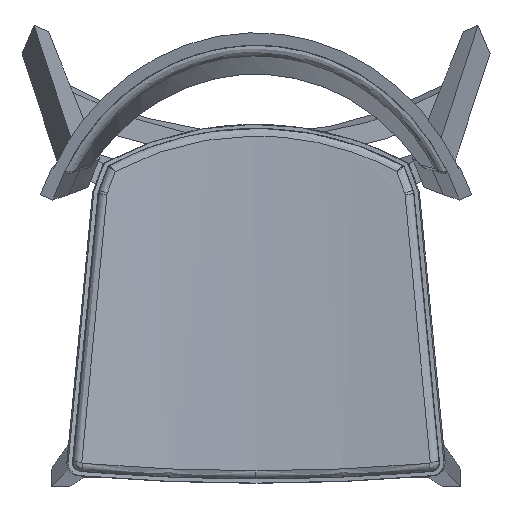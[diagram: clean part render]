
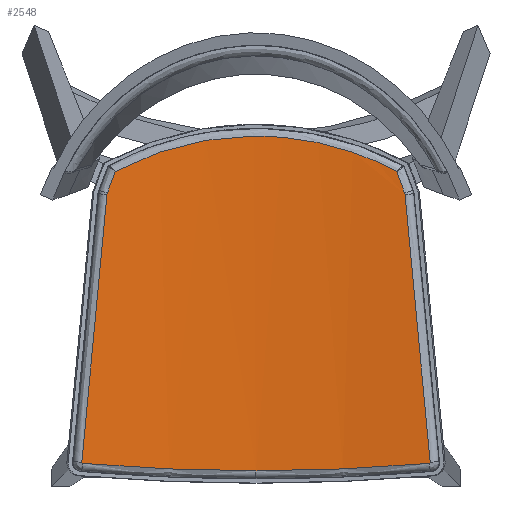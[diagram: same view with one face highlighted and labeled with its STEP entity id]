
A CAD part, top view. The second image highlights one B-rep face of the part: STEP entity #2548.
In plain terms, the highlighted cylindrical face has radius 1387 mm (diameter 2774 mm), a partial arc.
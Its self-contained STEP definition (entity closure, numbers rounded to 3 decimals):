
#267=B_SPLINE_CURVE_WITH_KNOTS('',3,(#6824,#6825,#6826,#6827,#6828,#6829,
#6830,#6831),.UNSPECIFIED.,.F.,.F.,(4,1,1,1,1,4),(-34.172,-24.642,
-14.785,-12.321,-4.928,-0.326),
 .UNSPECIFIED.);
#270=B_SPLINE_CURVE_WITH_KNOTS('',3,(#6905,#6906,#6907,#6908),
 .UNSPECIFIED.,.F.,.F.,(4,4),(-2.979,-0.33),
 .UNSPECIFIED.);
#271=B_SPLINE_CURVE_WITH_KNOTS('',3,(#6935,#6936,#6937,#6938),
 .UNSPECIFIED.,.F.,.F.,(4,4),(-0.164,0.),
 .UNSPECIFIED.);
#272=B_SPLINE_CURVE_WITH_KNOTS('',3,(#6985,#6986,#6987,#6988,#6989,#6990,
#6991),.UNSPECIFIED.,.F.,.F.,(4,1,1,1,4),(-0.197,-0.14,
-0.084,-0.028,0.),.UNSPECIFIED.);
#274=B_SPLINE_CURVE_WITH_KNOTS('',3,(#7028,#7029,#7030,#7031),
 .UNSPECIFIED.,.F.,.F.,(4,4),(-20.046,0.),.UNSPECIFIED.);
#276=B_SPLINE_CURVE_WITH_KNOTS('',3,(#7063,#7064,#7065,#7066),
 .UNSPECIFIED.,.F.,.F.,(4,4),(-20.046,0.),.UNSPECIFIED.);
#278=B_SPLINE_CURVE_WITH_KNOTS('',3,(#7116,#7117,#7118,#7119,#7120,#7121,
#7122),.UNSPECIFIED.,.F.,.F.,(4,1,1,1,4),(-0.197,-0.169,
-0.14,-0.084,0.),
 .UNSPECIFIED.);
#280=B_SPLINE_CURVE_WITH_KNOTS('',3,(#7157,#7158,#7159,#7160),
 .UNSPECIFIED.,.F.,.F.,(4,4),(-30.822,0.),
 .UNSPECIFIED.);
#282=B_SPLINE_CURVE_WITH_KNOTS('',3,(#7191,#7192,#7193,#7194),
 .UNSPECIFIED.,.F.,.F.,(4,4),(-0.164,0.),.UNSPECIFIED.);
#285=B_SPLINE_CURVE_WITH_KNOTS('',3,(#7242,#7243,#7244,#7245),
 .UNSPECIFIED.,.F.,.F.,(4,4),(-2.649,0.),
 .UNSPECIFIED.);
#286=B_SPLINE_CURVE_WITH_KNOTS('',3,(#7270,#7271,#7272,#7273),
 .UNSPECIFIED.,.F.,.F.,(4,4),(-30.822,0.),.UNSPECIFIED.);
#339=CYLINDRICAL_SURFACE('',#2740,1387.);
#550=FACE_OUTER_BOUND('',#712,.T.);
#712=EDGE_LOOP('',(#2335,#2336,#2337,#2338,#2339,#2340,#2341,#2342,#2343,
#2344,#2345));
#1175=VERTEX_POINT('',#6794);
#1176=VERTEX_POINT('',#6823);
#1177=VERTEX_POINT('',#6903);
#1178=VERTEX_POINT('',#6933);
#1180=VERTEX_POINT('',#6982);
#1181=VERTEX_POINT('',#6984);
#1184=VERTEX_POINT('',#7026);
#1186=VERTEX_POINT('',#7061);
#1188=VERTEX_POINT('',#7114);
#1190=VERTEX_POINT('',#7155);
#1191=VERTEX_POINT('',#7189);
#1542=EDGE_CURVE('',#1175,#1176,#267,.T.);
#1546=EDGE_CURVE('',#1177,#1175,#270,.T.);
#1548=EDGE_CURVE('',#1178,#1177,#271,.T.);
#1550=EDGE_CURVE('',#1180,#1181,#272,.T.);
#1554=EDGE_CURVE('',#1184,#1180,#274,.T.);
#1557=EDGE_CURVE('',#1186,#1184,#276,.T.);
#1560=EDGE_CURVE('',#1188,#1186,#278,.T.);
#1563=EDGE_CURVE('',#1190,#1188,#280,.T.);
#1566=EDGE_CURVE('',#1191,#1190,#282,.T.);
#1569=EDGE_CURVE('',#1176,#1191,#285,.T.);
#1570=EDGE_CURVE('',#1181,#1178,#286,.T.);
#2335=ORIENTED_EDGE('',*,*,#1550,.F.);
#2336=ORIENTED_EDGE('',*,*,#1554,.F.);
#2337=ORIENTED_EDGE('',*,*,#1557,.F.);
#2338=ORIENTED_EDGE('',*,*,#1560,.F.);
#2339=ORIENTED_EDGE('',*,*,#1563,.F.);
#2340=ORIENTED_EDGE('',*,*,#1566,.F.);
#2341=ORIENTED_EDGE('',*,*,#1569,.F.);
#2342=ORIENTED_EDGE('',*,*,#1542,.F.);
#2343=ORIENTED_EDGE('',*,*,#1546,.F.);
#2344=ORIENTED_EDGE('',*,*,#1548,.F.);
#2345=ORIENTED_EDGE('',*,*,#1570,.F.);
#2548=ADVANCED_FACE('',(#550),#339,.F.);
#2740=AXIS2_PLACEMENT_3D('',#7559,#3192,#3193);
#3192=DIRECTION('center_axis',(0.,1.,-0.024));
#3193=DIRECTION('ref_axis',(-0.156,-0.024,-0.987));
#6794=CARTESIAN_POINT('',(-161.091,146.878,777.812));
#6823=CARTESIAN_POINT('',(161.091,146.878,777.812));
#6824=CARTESIAN_POINT('Ctrl Pts',(-161.091,146.878,777.812));
#6825=CARTESIAN_POINT('Ctrl Pts',(-133.428,161.747,774.224));
#6826=CARTESIAN_POINT('Ctrl Pts',(-72.838,184.244,768.349));
#6827=CARTESIAN_POINT('Ctrl Pts',(0.135,189.521,766.899));
#6828=CARTESIAN_POINT('Ctrl Pts',(65.068,182.463,768.797));
#6829=CARTESIAN_POINT('Ctrl Pts',(111.644,170.472,771.975));
#6830=CARTESIAN_POINT('Ctrl Pts',(147.734,154.059,776.079));
#6831=CARTESIAN_POINT('Ctrl Pts',(161.091,146.878,777.812));
#6903=CARTESIAN_POINT('',(-170.281,122.114,779.508));
#6905=CARTESIAN_POINT('Ctrl Pts',(-170.281,122.114,779.508));
#6906=CARTESIAN_POINT('Ctrl Pts',(-167.218,130.368,778.933));
#6907=CARTESIAN_POINT('Ctrl Pts',(-164.155,138.623,778.367));
#6908=CARTESIAN_POINT('Ctrl Pts',(-161.091,146.878,777.812));
#6933=CARTESIAN_POINT('',(-170.647,120.519,779.591));
#6935=CARTESIAN_POINT('Ctrl Pts',(-170.647,120.519,779.591));
#6936=CARTESIAN_POINT('Ctrl Pts',(-170.594,121.064,779.572));
#6937=CARTESIAN_POINT('Ctrl Pts',(-170.471,121.602,779.544));
#6938=CARTESIAN_POINT('Ctrl Pts',(-170.281,122.114,779.508));
#6982=CARTESIAN_POINT('',(-198.276,-187.43,790.634));
#6984=CARTESIAN_POINT('',(-199.461,-186.131,790.775));
#6985=CARTESIAN_POINT('Ctrl Pts',(-198.276,-187.43,790.634));
#6986=CARTESIAN_POINT('Ctrl Pts',(-198.459,-187.415,790.661));
#6987=CARTESIAN_POINT('Ctrl Pts',(-198.821,-187.31,790.71));
#6988=CARTESIAN_POINT('Ctrl Pts',(-199.26,-186.947,790.765));
#6989=CARTESIAN_POINT('Ctrl Pts',(-199.459,-186.508,790.784));
#6990=CARTESIAN_POINT('Ctrl Pts',(-199.47,-186.225,790.779));
#6991=CARTESIAN_POINT('Ctrl Pts',(-199.461,-186.131,790.775));
#7026=CARTESIAN_POINT('',(0.,-195.835,776.585));
#7028=CARTESIAN_POINT('Ctrl Pts',(0.,-195.835,
776.585));
#7029=CARTESIAN_POINT('Ctrl Pts',(-66.391,-195.835,776.585));
#7030=CARTESIAN_POINT('Ctrl Pts',(-132.777,-192.992,781.304));
#7031=CARTESIAN_POINT('Ctrl Pts',(-198.276,-187.43,790.634));
#7061=CARTESIAN_POINT('',(198.276,-187.43,790.634));
#7063=CARTESIAN_POINT('Ctrl Pts',(198.276,-187.43,790.634));
#7064=CARTESIAN_POINT('Ctrl Pts',(132.777,-192.992,781.304));
#7065=CARTESIAN_POINT('Ctrl Pts',(66.391,-195.835,776.585));
#7066=CARTESIAN_POINT('Ctrl Pts',(0.,-195.835,
776.585));
#7114=CARTESIAN_POINT('',(199.461,-186.131,790.775));
#7116=CARTESIAN_POINT('Ctrl Pts',(199.461,-186.131,790.775));
#7117=CARTESIAN_POINT('Ctrl Pts',(199.47,-186.225,790.779));
#7118=CARTESIAN_POINT('Ctrl Pts',(199.462,-186.413,790.782));
#7119=CARTESIAN_POINT('Ctrl Pts',(199.353,-186.775,790.775));
#7120=CARTESIAN_POINT('Ctrl Pts',(199.,-187.228,790.734));
#7121=CARTESIAN_POINT('Ctrl Pts',(198.551,-187.407,790.674));
#7122=CARTESIAN_POINT('Ctrl Pts',(198.276,-187.43,790.634));
#7155=CARTESIAN_POINT('',(170.647,120.519,779.591));
#7157=CARTESIAN_POINT('Ctrl Pts',(170.647,120.519,779.591));
#7158=CARTESIAN_POINT('Ctrl Pts',(180.407,18.314,783.236));
#7159=CARTESIAN_POINT('Ctrl Pts',(190.012,-83.903,786.967));
#7160=CARTESIAN_POINT('Ctrl Pts',(199.461,-186.131,790.775));
#7189=CARTESIAN_POINT('',(170.281,122.114,779.508));
#7191=CARTESIAN_POINT('Ctrl Pts',(170.281,122.114,779.508));
#7192=CARTESIAN_POINT('Ctrl Pts',(170.471,121.602,779.544));
#7193=CARTESIAN_POINT('Ctrl Pts',(170.594,121.064,779.572));
#7194=CARTESIAN_POINT('Ctrl Pts',(170.647,120.519,779.591));
#7242=CARTESIAN_POINT('Ctrl Pts',(161.091,146.878,777.812));
#7243=CARTESIAN_POINT('Ctrl Pts',(164.155,138.623,778.367));
#7244=CARTESIAN_POINT('Ctrl Pts',(167.218,130.368,778.933));
#7245=CARTESIAN_POINT('Ctrl Pts',(170.281,122.114,779.508));
#7270=CARTESIAN_POINT('Ctrl Pts',(-199.461,-186.131,790.775));
#7271=CARTESIAN_POINT('Ctrl Pts',(-190.012,-83.903,786.967));
#7272=CARTESIAN_POINT('Ctrl Pts',(-180.407,18.314,783.236));
#7273=CARTESIAN_POINT('Ctrl Pts',(-170.647,120.519,779.591));
#7559=CARTESIAN_POINT('Origin',(0.,-176.607,
2163.521));
